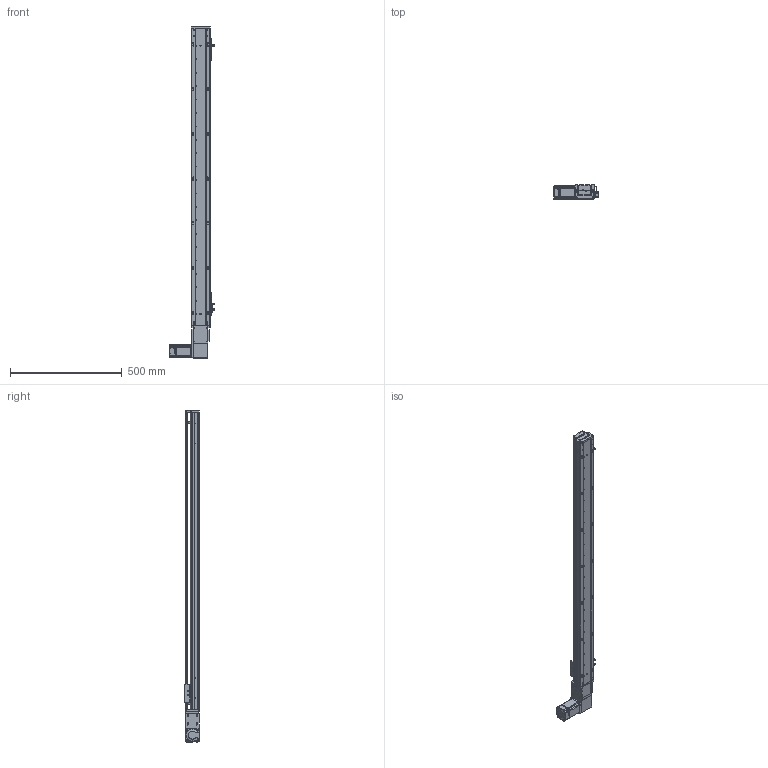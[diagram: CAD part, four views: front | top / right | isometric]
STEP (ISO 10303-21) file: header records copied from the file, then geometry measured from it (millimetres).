
FILE_DESCRIPTION (( 'STEP AP203' ), '1' );
FILE_NAME ('RY80-T-300-LK.SLDASM_1150.step', '2021-03-01T01:59:09', ( '盈信电脑' ), ( '东莞市道滘镇水果街19号' ), 'SwSTEP 2.0', 'SolidWorks 2012', '' );
FILE_SCHEMA (( 'CONFIG_CONTROL_DESIGN' ));
Products named in the file (19): RY80-T-300-LK.SLDASM_1150; RY80-T-M4蹟翐; RY80-T萇儂假蚾啣; RY80-T肮祭謫俋欶; 侂狟200W萇儂; 滅袉蝶18-10; RY80-T翋肮祭謫裔啣; 1; RY80-T肮祭湍揤輸2; RY80-T肮祭湍揤輸1; RY80-T-翋肮祭謫釱; RY80-T粣創揤踡輸; RY80俋离覜茼え; 672嫖萇羲壽假蚾釱; RY80-T綴裔啣; 覜茼ん672; RY80-T-300-LK倰第菁釱_1150; RY80-T-300-LK倰第奻裔啣_1150; RY80-T肮祭謫臏賑輸
Assembly tree (24 placements, depth 3):
  RY80-T-300-LK.SLDASM_1150
    RY80-T-300-LK倰第菁釱_1150
    RY80-T肮祭謫臏賑輸
    RY80-T-300-LK倰第奻裔啣_1150
    RY80-T綴裔啣
    672嫖萇羲壽假蚾釱  x2
    覜茼ん672  x3
    RY80俋离覜茼え
    RY80-T-翋肮祭謫釱
    RY80-T肮祭湍揤輸1
    RY80-T肮祭湍揤輸2
    RY80-T粣創揤踡輸
    RY80-T翋肮祭謫裔啣  x2
    滅袉蝶18-10  x2
    侂狟200W萇儂
      1
    RY80-T肮祭謫俋欶
    RY80-T萇儂假蚾啣
    RY80-T-M4蹟翐  x2
Bounding box: 198.7 x 65 x 1485 mm (x, y, z)
Volume: 2374423.3 mm3; surface area: 994898.5 mm2
Topology: 23 solids, 23 shells, 2464 faces, 6802 edges, 4419 vertices
Faces by surface type: plane 1317, cylinder 942, cone 149, bspline 56
Entity records: 77487 total; most frequent: CARTESIAN_POINT 18801, ORIENTED_EDGE 12048, DIRECTION 11330, EDGE_CURVE 6024, VERTEX_POINT 3960, AXIS2_PLACEMENT_3D 3813, VECTOR 3704, LINE 3704
